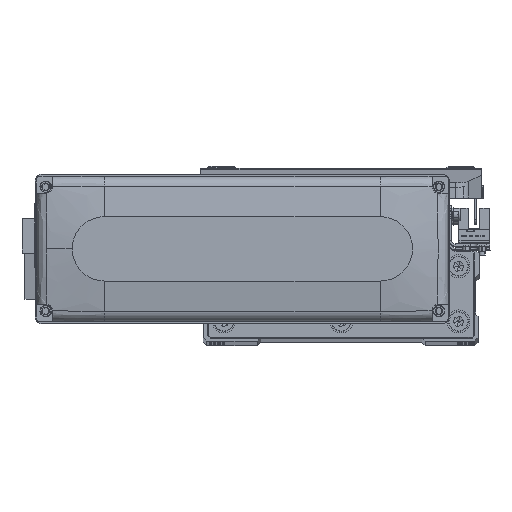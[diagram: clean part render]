
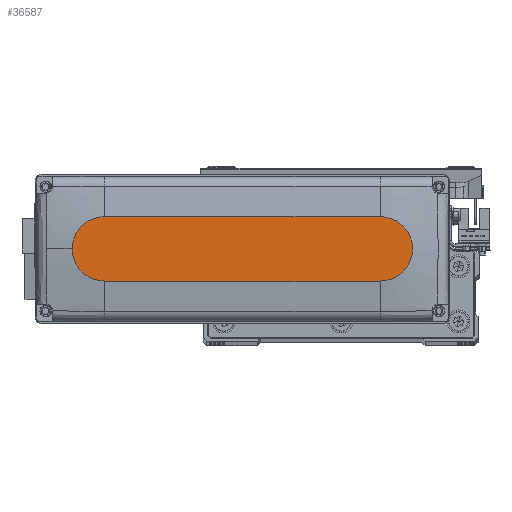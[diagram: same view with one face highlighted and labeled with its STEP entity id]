
A CAD part, top view. The second image highlights one B-rep face of the part: STEP entity #36587.
In plain terms, the highlighted planar face has unit normal (0, 0, 1).
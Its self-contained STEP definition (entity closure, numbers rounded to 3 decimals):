
#1856 = CARTESIAN_POINT ( 'NONE',  ( -60., 14., 28.5 ) ) ;
#3370 = CARTESIAN_POINT ( 'NONE',  ( 60., 0., 28.5 ) ) ;
#3859 = ORIENTED_EDGE ( 'NONE', *, *, #32241, .T. ) ;
#4916 = DIRECTION ( 'NONE',  ( 0., 0., 1. ) ) ;
#5523 = DIRECTION ( 'NONE',  ( -1., 0., 0. ) ) ;
#6640 = CIRCLE ( 'NONE', #33834, 14. ) ;
#7372 = CARTESIAN_POINT ( 'NONE',  ( -60., 14., 28.5 ) ) ;
#11767 = CARTESIAN_POINT ( 'NONE',  ( 60., 14., 28.5 ) ) ;
#12831 = LINE ( 'NONE', #1856, #14530 ) ;
#14463 = CARTESIAN_POINT ( 'NONE',  ( 60., 0., 28.5 ) ) ;
#14530 = VECTOR ( 'NONE', #5523, 1000. ) ;
#14572 = DIRECTION ( 'NONE',  ( 1., 0., 0. ) ) ;
#15096 = LINE ( 'NONE', #18743, #40028 ) ;
#16303 = VERTEX_POINT ( 'NONE', #40933 ) ;
#17691 = FACE_OUTER_BOUND ( 'NONE', #43938, .T. ) ;
#17979 = DIRECTION ( 'NONE',  ( 0., 0., 1. ) ) ;
#18421 = AXIS2_PLACEMENT_3D ( 'NONE', #26845, #4916, #19049 ) ;
#18743 = CARTESIAN_POINT ( 'NONE',  ( -60., -14., 28.5 ) ) ;
#19049 = DIRECTION ( 'NONE',  ( 1., 0., 0. ) ) ;
#20366 = CARTESIAN_POINT ( 'NONE',  ( -60., -14., 28.5 ) ) ;
#20613 = VERTEX_POINT ( 'NONE', #20366 ) ;
#20857 = DIRECTION ( 'NONE',  ( 1., 0., 0. ) ) ;
#21598 = ORIENTED_EDGE ( 'NONE', *, *, #24249, .T. ) ;
#22655 = VERTEX_POINT ( 'NONE', #11767 ) ;
#23763 = ORIENTED_EDGE ( 'NONE', *, *, #31814, .T. ) ;
#24249 = EDGE_CURVE ( 'NONE', #44657, #20613, #37832, .T. ) ;
#25306 = EDGE_CURVE ( 'NONE', #22655, #44657, #12831, .T. ) ;
#26845 = CARTESIAN_POINT ( 'NONE',  ( -60., 0., 28.5 ) ) ;
#27934 = CIRCLE ( 'NONE', #40374, 14. ) ;
#28905 = CARTESIAN_POINT ( 'NONE',  ( 0., 0., 28.5 ) ) ;
#29323 = DIRECTION ( 'NONE',  ( 1., 0., 0. ) ) ;
#31787 = AXIS2_PLACEMENT_3D ( 'NONE', #28905, #47122, #20857 ) ;
#31814 = EDGE_CURVE ( 'NONE', #20613, #40051, #15096, .T. ) ;
#32241 = EDGE_CURVE ( 'NONE', #40051, #16303, #6640, .T. ) ;
#33143 = DIRECTION ( 'NONE',  ( 1., 0., 0. ) ) ;
#33834 = AXIS2_PLACEMENT_3D ( 'NONE', #3370, #17979, #14572 ) ;
#35035 = ORIENTED_EDGE ( 'NONE', *, *, #37233, .T. ) ;
#36587 = ADVANCED_FACE ( 'NONE', ( #17691 ), #43722, .T. ) ;
#36613 = DIRECTION ( 'NONE',  ( 0., 0., 1. ) ) ;
#37233 = EDGE_CURVE ( 'NONE', #16303, #22655, #27934, .T. ) ;
#37832 = CIRCLE ( 'NONE', #18421, 14. ) ;
#40028 = VECTOR ( 'NONE', #33143, 1000. ) ;
#40051 = VERTEX_POINT ( 'NONE', #45557 ) ;
#40374 = AXIS2_PLACEMENT_3D ( 'NONE', #14463, #36613, #29323 ) ;
#40933 = CARTESIAN_POINT ( 'NONE',  ( 74., 0., 28.5 ) ) ;
#43722 = PLANE ( 'NONE',  #31787 ) ;
#43938 = EDGE_LOOP ( 'NONE', ( #44216, #21598, #23763, #3859, #35035 ) ) ;
#44216 = ORIENTED_EDGE ( 'NONE', *, *, #25306, .T. ) ;
#44657 = VERTEX_POINT ( 'NONE', #7372 ) ;
#45557 = CARTESIAN_POINT ( 'NONE',  ( 60., -14., 28.5 ) ) ;
#47122 = DIRECTION ( 'NONE',  ( 0., 0., 1. ) ) ;
